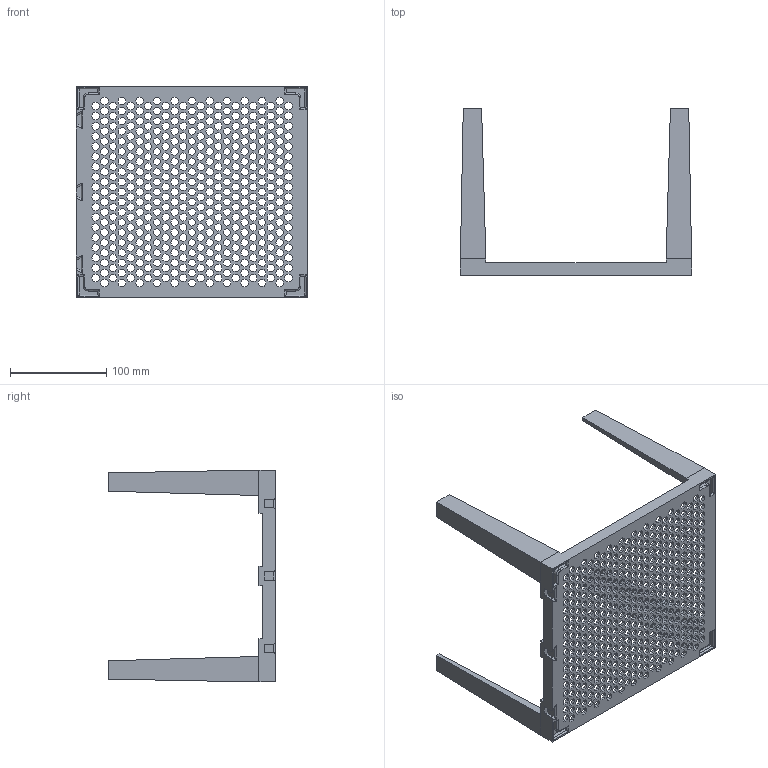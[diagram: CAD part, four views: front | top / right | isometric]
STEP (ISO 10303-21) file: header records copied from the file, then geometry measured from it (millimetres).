
FILE_DESCRIPTION (( 'STEP AP214' ), '1' );
FILE_NAME ('Shoe rack element v4.1 base.STEP', '2024-10-05T08:41:27', ( '' ), ( '' ), 'SwSTEP 2.0', 'SolidWorks 2024', '' );
FILE_SCHEMA (( 'AUTOMOTIVE_DESIGN' ));
Length unit declared in the file: millimetre
Products named in the file (1): Shoe rack element v4.1 base
Bounding box: 240 x 173.01 x 220 mm (x, y, z)
Volume: 307070.2 mm3; surface area: 175792 mm2
Topology: 1 solids, 1 shells, 4008 faces, 11926 edges, 7924 vertices
Faces by surface type: plane 3953, cylinder 47, bspline 4, torus 4
Entity records: 133451 total; most frequent: CARTESIAN_POINT 24249, ORIENTED_EDGE 23852, DIRECTION 19944, EDGE_CURVE 11926, LINE 11846, VECTOR 11846, VERTEX_POINT 7924, EDGE_LOOP 4862
